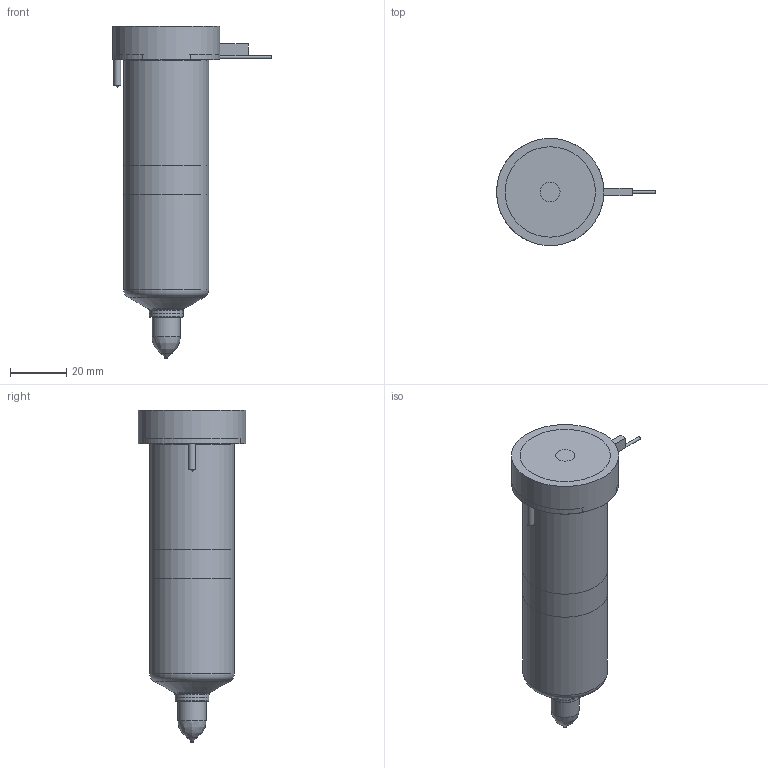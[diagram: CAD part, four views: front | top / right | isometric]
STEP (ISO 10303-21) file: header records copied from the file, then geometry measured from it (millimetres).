
FILE_DESCRIPTION(/* description */ (''),/* implementation_level */ '2;1');
FILE_NAME(/* name */ 'BXTT-BXIT16095-10_250C_b',/* time_stamp */ '2007-01-18T10:00:06+13:00',/* author */ (''),/* organization */ (''),/* preprocessor_version */ 'ST-DEVELOPER v9',/* originating_system */ 'UGS - NX 4.0',/* authorisation */ '');
FILE_SCHEMA (('CONFIG_CONTROL_DESIGN'));
Length unit declared in the file: millimetre
Products named in the file (1): BXTT-BXIT16095-10_250C_b
Bounding box: 56.25 x 38 x 117.55 mm (x, y, z)
Volume: 138318 mm3; surface area: 26417.3 mm2
Topology: 6 solids, 6 shells, 82 faces, 162 edges, 102 vertices
Faces by surface type: plane 35, cylinder 25, cone 12, torus 8, bspline 2
Full cylindrical faces by diameter (mm): 1 x4, 2.5 x2, 6.5 x1, 7 x1, 10 x1, 11.61 x1, 12.01 x2, 14.8 x1, 25.4 x1, 30 x2, 38 x1
Entity records: 2035 total; most frequent: CARTESIAN_POINT 419, DIRECTION 340, ORIENTED_EDGE 236, AXIS2_PLACEMENT_3D 151, EDGE_LOOP 128, EDGE_CURVE 118, VERTEX_POINT 95, ADVANCED_FACE 82
